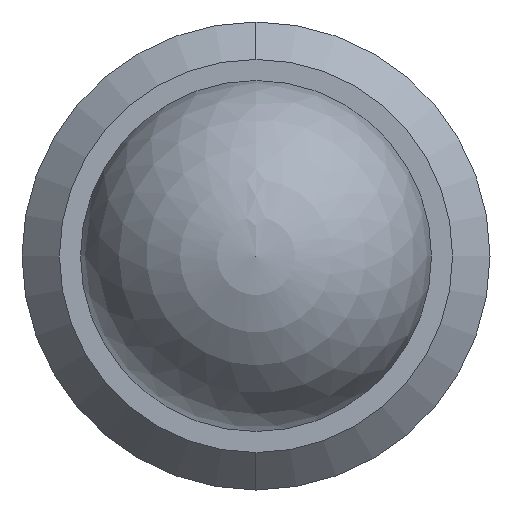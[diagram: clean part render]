
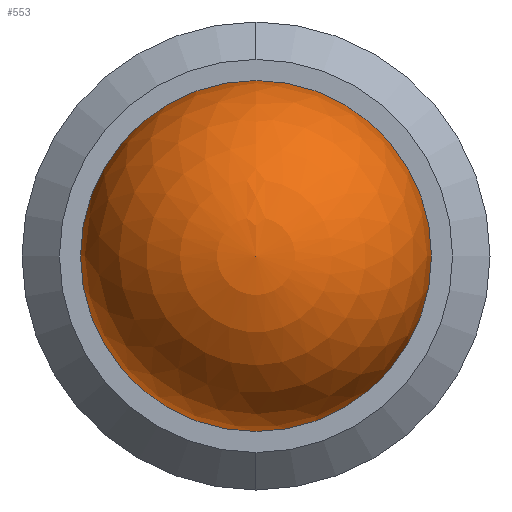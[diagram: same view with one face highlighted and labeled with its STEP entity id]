
A CAD part, left-side view. The second image highlights one B-rep face of the part: STEP entity #553.
In plain terms, the highlighted spherical face has radius 2.381 mm.
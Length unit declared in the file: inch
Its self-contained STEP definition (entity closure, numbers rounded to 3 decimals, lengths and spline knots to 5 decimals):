
#27 = DIRECTION ( 'NONE',  ( -1., 0., 0. ) ) ;
#49 = EDGE_LOOP ( 'NONE', ( #585, #461 ) ) ;
#149 = AXIS2_PLACEMENT_3D ( 'NONE', #217, #27, #322 ) ;
#151 = CIRCLE ( 'NONE', #326, 0.09375 ) ;
#152 = DIRECTION ( 'NONE',  ( -1., 0., 0. ) ) ;
#153 = CIRCLE ( 'NONE', #358, 0.09375 ) ;
#186 = CARTESIAN_POINT ( 'NONE',  ( 0., -0.09375, 0. ) ) ;
#217 = CARTESIAN_POINT ( 'NONE',  ( 0., 0., 0. ) ) ;
#231 = DIRECTION ( 'NONE',  ( 1., 0., 0. ) ) ;
#232 = VERTEX_POINT ( 'NONE', #186 ) ;
#249 = CARTESIAN_POINT ( 'NONE',  ( 0., 0.09375, 0. ) ) ;
#286 = EDGE_CURVE ( 'NONE', #425, #232, #153, .T. ) ;
#315 = EDGE_CURVE ( 'NONE', #425, #232, #151, .T. ) ;
#322 = DIRECTION ( 'NONE',  ( 0., 0., 1. ) ) ;
#326 = AXIS2_PLACEMENT_3D ( 'NONE', #430, #152, #480 ) ;
#358 = AXIS2_PLACEMENT_3D ( 'NONE', #523, #231, #569 ) ;
#393 = SPHERICAL_SURFACE ( 'NONE', #149, 0.09375 ) ;
#425 = VERTEX_POINT ( 'NONE', #249 ) ;
#430 = CARTESIAN_POINT ( 'NONE',  ( 0., 0., 0. ) ) ;
#461 = ORIENTED_EDGE ( 'NONE', *, *, #315, .T. ) ;
#480 = DIRECTION ( 'NONE',  ( 0., 0., 1. ) ) ;
#523 = CARTESIAN_POINT ( 'NONE',  ( 0., 0., 0. ) ) ;
#553 = ADVANCED_FACE ( 'NONE', ( #587 ), #393, .T. ) ;
#569 = DIRECTION ( 'NONE',  ( 0., 0., -1. ) ) ;
#585 = ORIENTED_EDGE ( 'NONE', *, *, #286, .F. ) ;
#587 = FACE_OUTER_BOUND ( 'NONE', #49, .T. ) ;
